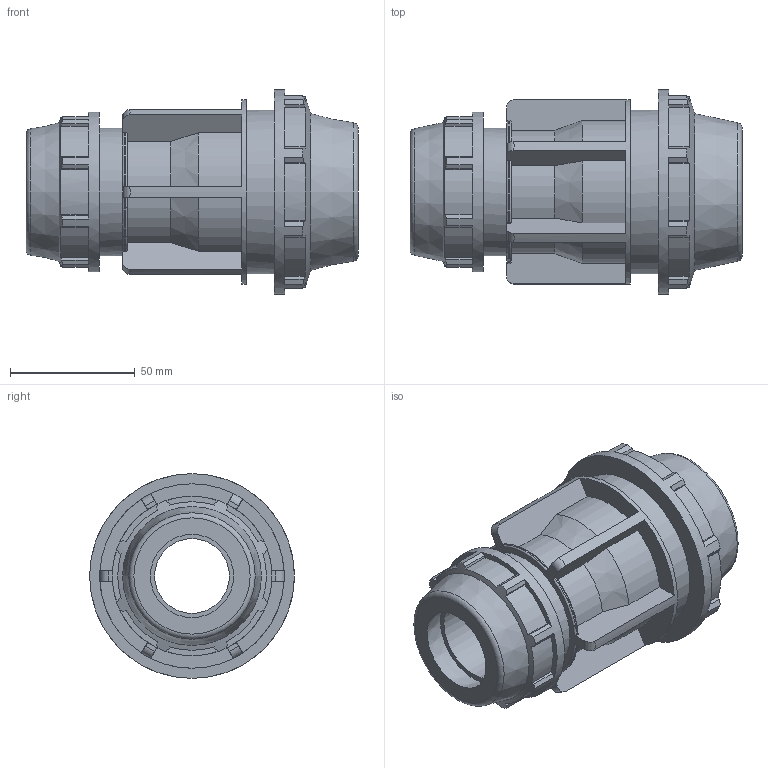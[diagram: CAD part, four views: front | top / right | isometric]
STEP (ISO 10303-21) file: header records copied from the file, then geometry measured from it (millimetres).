
FILE_DESCRIPTION(/* description */ ('PLASSON REDUCING COUPLER 1 1/4'''' - 3/4'''''),/* implementation_level */ '2;1');
FILE_NAME(/* name */ 'C:\Dropbox\KIMPROJECTS-Inventor 2019\99-16-3568-Processing Inch\ASTM Compression 2021\0711M0\0711M0013010.ipt.stp',/* time_stamp */ '2021-08-26T12:32:48+03:00',/* author */ ('KIM'),/* organization */ (''),/* preprocessor_version */ 'ST-DEVELOPER v17.2',/* originating_system */ 'Autodesk Inventor 2019',/* authorisation */ '');
FILE_SCHEMA (('AUTOMOTIVE_DESIGN { 1 0 10303 214 3 1 1 }'));
Length unit declared in the file: inch
Products named in the file (1): 0711M0013010
Bounding box: 133 x 82.04 x 82.04 mm (x, y, z)
Volume: 229950 mm3; surface area: 58929.9 mm2
Topology: 1 solids, 1 shells, 189 faces, 562 edges, 383 vertices
Faces by surface type: plane 114, cylinder 47, cone 14, torus 14
Full cylindrical faces by diameter (mm): 33.3 x1, 42.1 x1, 51.206 x1, 64.008 x1, 65.634 x1, 73.838 x1, 82.042 x1
Entity records: 6809 total; most frequent: CARTESIAN_POINT 1475, ORIENTED_EDGE 1124, DIRECTION 1047, EDGE_CURVE 562, VERTEX_POINT 383, AXIS2_PLACEMENT_3D 375, LINE 297, VECTOR 297
